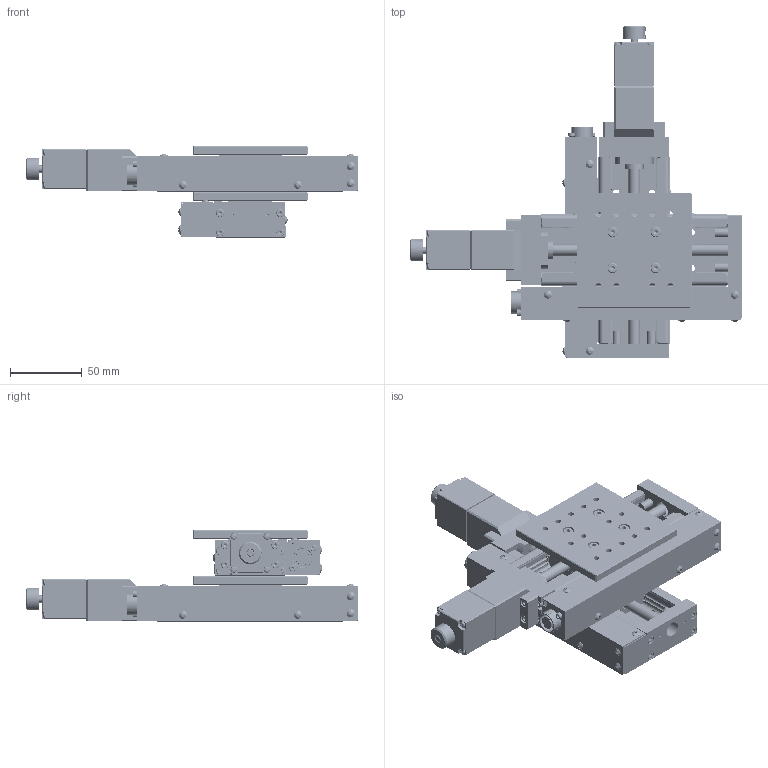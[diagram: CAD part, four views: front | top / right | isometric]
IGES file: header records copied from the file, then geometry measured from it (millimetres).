
Start section: ------------------------------------------------------------------------
Bounding box: 231 x 231 x 64 mm (x, y, z)
Surface area: 281963.8 mm2 (no closed solid volume)
Topology: 0 solids, 0 shells, 5204 faces, 24518 edges, 24212 vertices
Faces by surface type: bspline 5204
